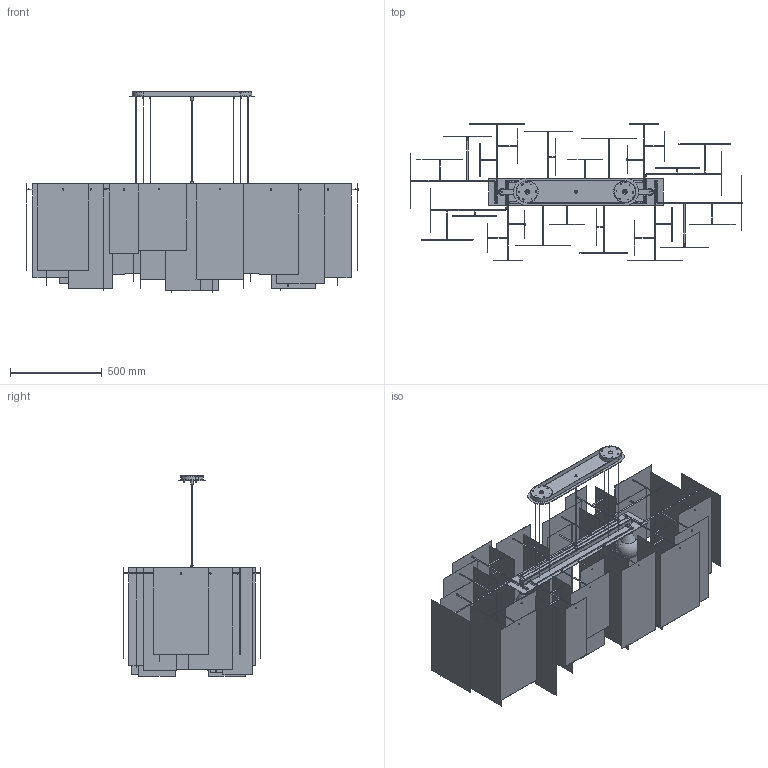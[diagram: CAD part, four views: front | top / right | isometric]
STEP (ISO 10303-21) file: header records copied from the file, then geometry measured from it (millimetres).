
FILE_DESCRIPTION((''),'2;1');
FILE_NAME('F:\KUBO SRL 2015\LAMPADA ALEXANDRA\DA FRANZOLINI DEL 27-02-15\ALEXANDRA 3 OVALE GRANDE.stp','2015-08-19T10:15:06',('Utente'),(''),'Autodesk Inventor 11','Autodesk Inventor 11','');
FILE_SCHEMA(('AUTOMOTIVE_DESIGN { 1 0 10303 214 1 1 1 1 }'));
Length unit declared in the file: millimetre
Products named in the file (42): ALEXANDRA 3 OVALE GRANDE; ROSONE ALEXANDRA 3; ROSONE 3; ALEX ROSONE 1; REGOLATORE; BLOCCACAVO; CAVO ELETTRICO SOSPENSIONE; CAVO; STAFFA A SOFFITTO; STAFFA 2; PIASTRA ALEX 3 OVALE GRANDE; PIASTRA OG 3; SCATOLA; BICCHIERINO; PORTALAMPADA E27; LAMPADINA GLOBO; BR OG 4; BRACCIO 3; FOG16; FOG13; FOG14; PERNO2; BR OG 2; F10; FOG7; FOG5; BR OG 1; FOG8; FOG9; FOG6; BR OG 3; FOG12; FOG3; FOG4; F11; BR OG 5; FOG15; FOG1; FOG2
Assembly tree (75 placements, depth 3):
  ALEXANDRA 3 OVALE GRANDE
    ROSONE ALEXANDRA 3
      ROSONE 3
      ALEX ROSONE 1  x2
      REGOLATORE  x6
      BLOCCACAVO
      CAVO ELETTRICO SOSPENSIONE
      CAVO  x6
      STAFFA A SOFFITTO  x2
      STAFFA 2  x2
    PIASTRA ALEX 3 OVALE GRANDE
      PIASTRA OG 3
      SCATOLA
      BLOCCACAVO
      BICCHIERINO  x2
      PORTALAMPADA E27  x2
      LAMPADINA GLOBO  x2
    BR OG 4  x2
      BRACCIO 3
      FOG16
      FOG13
      FOG14
      PERNO2
    BR OG 2  x2
      BRACCIO 3
      F10
      FOG7
      FOG5
      PERNO2
    BR OG 1  x2
      BRACCIO 3
      FOG8
      FOG9
      FOG6
      PERNO2
    BR OG 3  x2
      BRACCIO 3
      FOG12
      FOG3
      FOG4
      F11
    BR OG 5  x2
      BRACCIO 3
      FOG15
      FOG1
      FOG2
      PERNO2
Bounding box: 1805 x 745 x 1092.09 mm (x, y, z)
Volume: 7724641.4 mm3; surface area: 8750575.9 mm2
Topology: 96 solids, 96 shells, 1393 faces, 3399 edges, 2247 vertices
Faces by surface type: plane 680, cylinder 343, bspline 212, cone 84, torus 72, sphere 2
Full cylindrical faces by diameter (mm): 1.5 x6, 2 x6, 3.2 x24, 4.1 x24, 5 x32, 6 x44, 7 x25, 8 x2, 8.917 x2, 9.5 x6, 10 x2, 12 x6, 20 x2, 24 x2, 27 x2, 35.5 x2, 38 x2, 40 x2, 42 x2, 117 x2, 117.5 x2, 120 x2
Entity records: 15766 total; most frequent: CARTESIAN_POINT 4625, DIRECTION 2154, ORIENTED_EDGE 1748, EDGE_CURVE 874, AXIS2_PLACEMENT_3D 826, EDGE_LOOP 772, VERTEX_POINT 662, VECTOR 502
